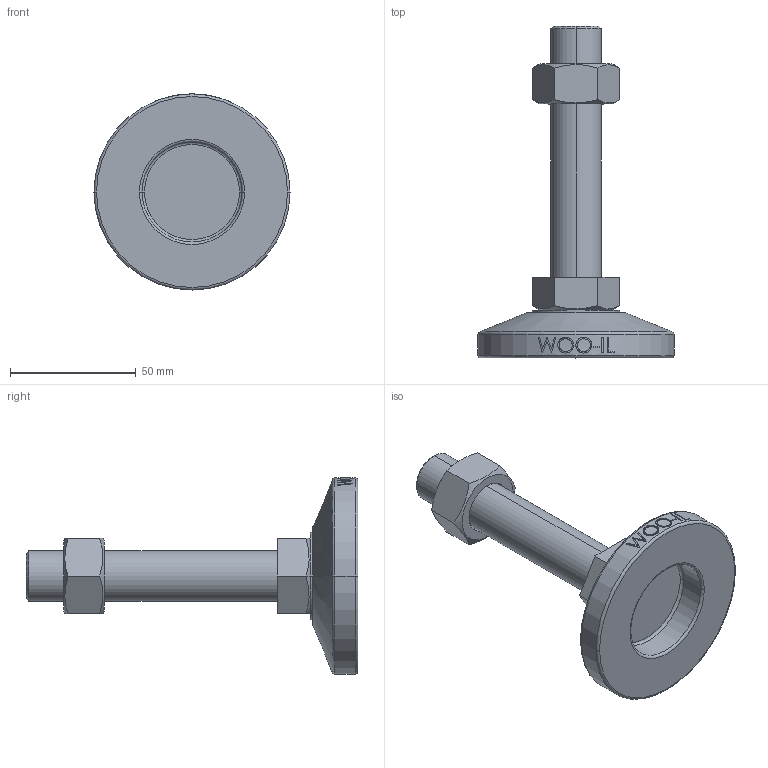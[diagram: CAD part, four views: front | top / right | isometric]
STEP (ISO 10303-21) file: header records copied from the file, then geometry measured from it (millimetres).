
FILE_DESCRIPTION (( 'STEP AP214' ), '1' );
FILE_NAME ('MFT78-M20-100.step', '2021-03-29T04:44:16', ( '' ), ( '' ), 'SwSTEP 2.0', 'SolidWorks 2019', '' );
FILE_SCHEMA (( 'AUTOMOTIVE_DESIGN' ));
Length unit declared in the file: millimetre
Products named in the file (2): MFT78-M20-100
Bounding box: 78 x 132 x 78 mm (x, y, z)
Volume: 105392.4 mm3; surface area: 26136.6 mm2
Topology: 3 solids, 3 shells, 106 faces, 247 edges, 158 vertices
Faces by surface type: plane 48, cylinder 18, bspline 16, cone 14, torus 10
Entity records: 4550 total; most frequent: CARTESIAN_POINT 2187, ORIENTED_EDGE 494, DIRECTION 439, EDGE_CURVE 247, AXIS2_PLACEMENT_3D 170, VERTEX_POINT 158, EDGE_LOOP 119, ADVANCED_FACE 106
